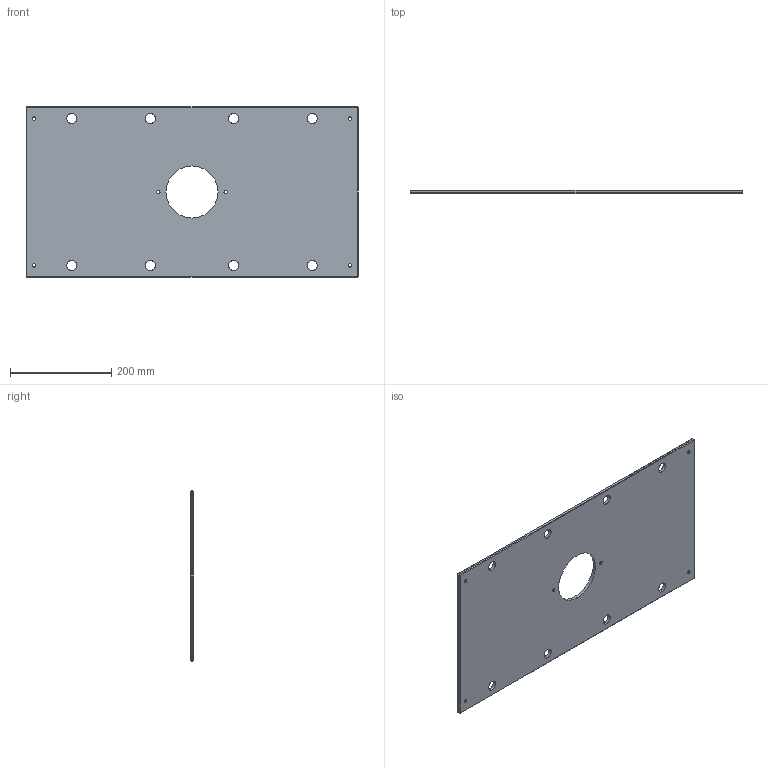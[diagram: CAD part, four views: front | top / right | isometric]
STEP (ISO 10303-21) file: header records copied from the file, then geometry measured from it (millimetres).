
FILE_DESCRIPTION (( 'STEP AP214' ), '1' );
FILE_NAME ('ME-0619-CH-1326.STEP', '2020-02-11T14:50:14', ( '' ), ( '' ), 'SwSTEP 2.0', 'SolidWorks 2018', '' );
FILE_SCHEMA (( 'AUTOMOTIVE_DESIGN' ));
Length unit declared in the file: inch
Products named in the file (1): ME-0619-CH-1326
Bounding box: 657.23 x 6.35 x 336.55 mm (x, y, z)
Volume: 1329801.8 mm3; surface area: 435807.5 mm2
Topology: 1 solids, 1 shells, 68 faces, 162 edges, 96 vertices
Faces by surface type: cylinder 30, plane 26, cone 12
Entity records: 2050 total; most frequent: DIRECTION 372, CARTESIAN_POINT 327, ORIENTED_EDGE 324, EDGE_CURVE 162, AXIS2_PLACEMENT_3D 141, EDGE_LOOP 98, VERTEX_POINT 96, LINE 90
